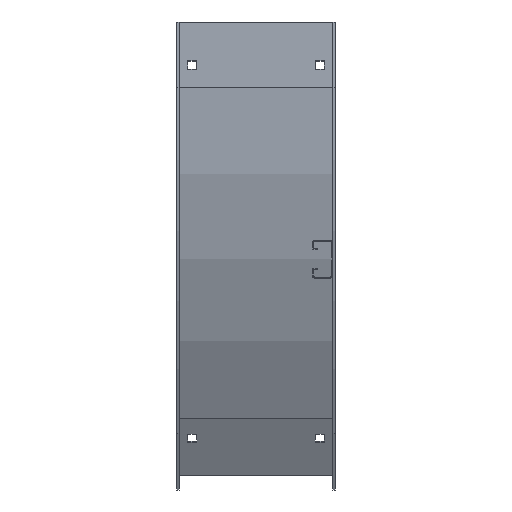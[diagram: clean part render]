
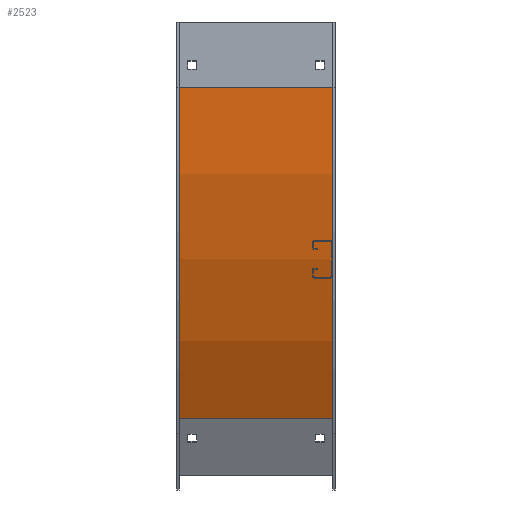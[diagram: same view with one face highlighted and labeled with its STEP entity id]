
A CAD part, left-side view. The second image highlights one B-rep face of the part: STEP entity #2523.
In plain terms, the highlighted cylindrical face has radius 766.826 mm (diameter 1533.65 mm), a partial arc.
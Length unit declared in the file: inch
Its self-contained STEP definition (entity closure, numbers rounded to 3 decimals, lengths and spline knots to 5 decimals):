
#1560=CARTESIAN_POINT('',(-7.13,-30.09,3.));
#1561=DIRECTION('',(1.,0.,0.));
#1562=DIRECTION('',(0.,1.,0.));
#1563=AXIS2_PLACEMENT_3D('',#1560,#1561,#1562);
#1753=DIRECTION('',(-1.,0.,0.));
#1754=VECTOR('',#1753,7.02);
#1755=CARTESIAN_POINT('',(-0.11,-3.94469,18.095));
#1756=LINE('',#1755,#1754);
#1793=DIRECTION('',(-1.,0.,0.));
#1794=VECTOR('',#1793,7.02);
#1795=CARTESIAN_POINT('',(-0.11,0.1,3.));
#1796=LINE('',#1795,#1794);
#1797=CARTESIAN_POINT('',(-0.11,-30.09,3.));
#1798=DIRECTION('',(1.,0.,0.));
#1799=DIRECTION('',(0.,1.,0.));
#1800=AXIS2_PLACEMENT_3D('',#1797,#1798,#1799);
#1924=CARTESIAN_POINT('',(-0.11,0.1,3.));
#1925=CARTESIAN_POINT('',(-7.13,0.1,3.));
#1926=VERTEX_POINT('',#1924);
#1927=VERTEX_POINT('',#1925);
#1948=CARTESIAN_POINT('',(-0.11,-3.94469,18.095));
#1949=CARTESIAN_POINT('',(-7.13,-3.94469,18.095));
#1950=VERTEX_POINT('',#1948);
#1951=VERTEX_POINT('',#1949);
#2512=CARTESIAN_POINT('',(-1.,-30.09,3.));
#2513=DIRECTION('',(1.,0.,0.));
#2514=DIRECTION('',(0.,-1.,0.));
#2515=AXIS2_PLACEMENT_3D('',#2512,#2513,#2514);
#2516=CYLINDRICAL_SURFACE('',#2515,30.19);
#2517=ORIENTED_EDGE('',*,*,#2297,.F.);
#2518=ORIENTED_EDGE('',*,*,#2338,.T.);
#2519=ORIENTED_EDGE('',*,*,#2485,.T.);
#2520=ORIENTED_EDGE('',*,*,#2275,.F.);
#2521=EDGE_LOOP('',(#2517,#2518,#2519,#2520));
#2522=FACE_OUTER_BOUND('',#2521,.F.);
#2523=ADVANCED_FACE('',(#2522),#2516,.T.);
#1564=CIRCLE('',#1563,30.19);
#1801=CIRCLE('',#1800,30.19);
#2275=EDGE_CURVE('',#1927,#1951,#1564,.T.);
#2297=EDGE_CURVE('',#1926,#1927,#1796,.T.);
#2338=EDGE_CURVE('',#1926,#1950,#1801,.T.);
#2485=EDGE_CURVE('',#1950,#1951,#1756,.T.);
